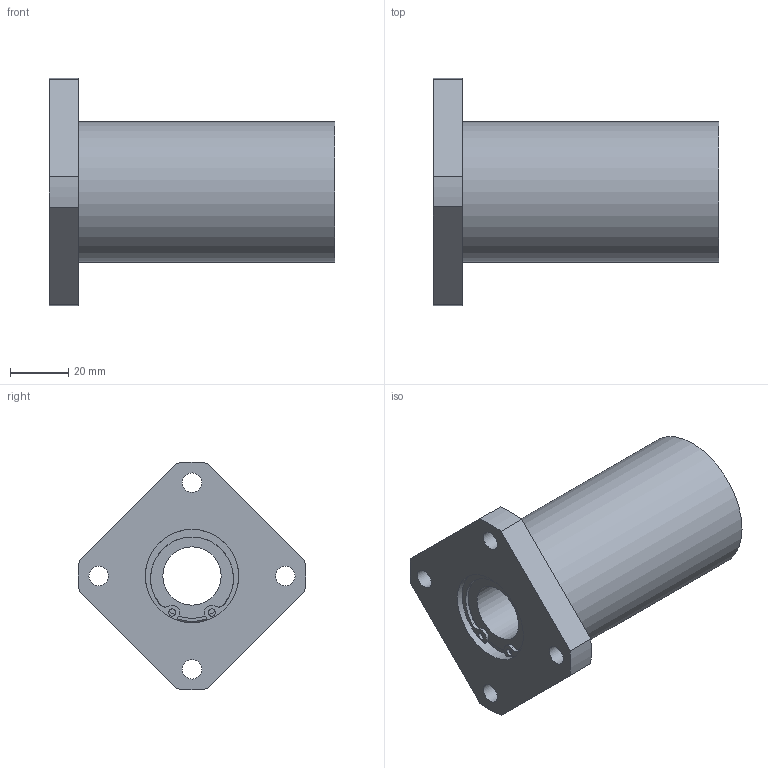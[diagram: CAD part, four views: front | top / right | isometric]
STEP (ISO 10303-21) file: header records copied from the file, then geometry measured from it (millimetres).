
FILE_DESCRIPTION((''),'2;1');
FILE_NAME('C:\Documents and Settings\土屋\My Documents\土屋移動用フォルダ\製品 (図面)\カタログ用3D\変換ファイル\OZAK_3D-CAD(STEP形式)\Part1.-Linear Bearings_ﾘﾆｱﾍﾞｱﾘﾝｸﾞ\09_Maintenance Free_ﾒｲﾝﾃﾅﾝｽﾌﾘｰ\L2017-09-21T17:48:54','2017-09-21T17:48:54',('y'),(''),'Autodesk Inventor 11','Autodesk Inventor 11','');
FILE_SCHEMA(('AUTOMOTIVE_DESIGN { 1 0 10303 214 1 1 1 1 }'));
Length unit declared in the file: millimetre
Products named in the file (1): LFWK20MF
Bounding box: 98 x 77.92 x 77.92 mm (x, y, z)
Volume: 161152.4 mm3; surface area: 31085.9 mm2
Topology: 1 solids, 3 shells, 71 faces, 188 edges, 118 vertices
Faces by surface type: plane 30, cylinder 25, bspline 14, torus 2
Full cylindrical faces by diameter (mm): 2.5 x2, 6.647 x4, 20 x1, 29 x2, 30.3 x2, 32 x4, 48 x1
Entity records: 2136 total; most frequent: CARTESIAN_POINT 464, DIRECTION 368, ORIENTED_EDGE 300, AXIS2_PLACEMENT_3D 160, EDGE_CURVE 150, EDGE_LOOP 114, VERTEX_POINT 102, CIRCLE 102
